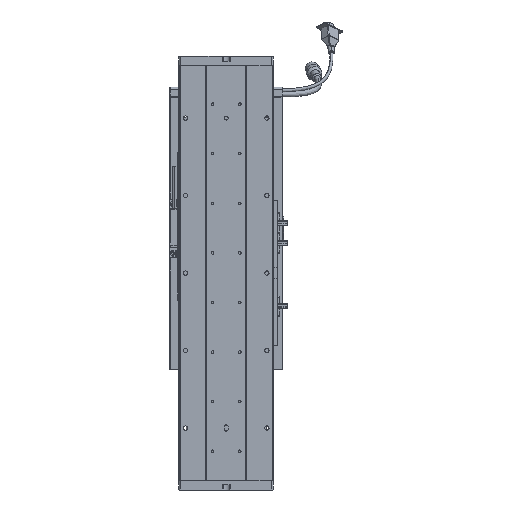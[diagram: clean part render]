
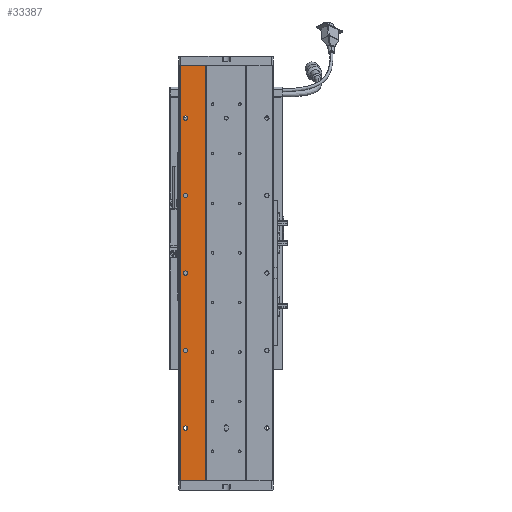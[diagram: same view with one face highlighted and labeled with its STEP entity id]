
A CAD part, front view. The second image highlights one B-rep face of the part: STEP entity #33387.
In plain terms, the highlighted planar face has unit normal (0, -1, 0).
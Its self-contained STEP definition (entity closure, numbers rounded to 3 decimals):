
#696 = EDGE_CURVE ( 'NONE', #24079, #5399, #27885, .T. ) ;
#879 = LINE ( 'NONE', #52023, #21330 ) ;
#1015 = DIRECTION ( 'NONE',  ( 0., 1., 0. ) ) ;
#1364 = CARTESIAN_POINT ( 'NONE',  ( 128.625, 76.768, 536. ) ) ;
#1545 = AXIS2_PLACEMENT_3D ( 'NONE', #44455, #1015, #29082 ) ;
#1965 = DIRECTION ( 'NONE',  ( 0., 0., 1. ) ) ;
#2203 = FACE_BOUND ( 'NONE', #65669, .T. ) ;
#2283 = AXIS2_PLACEMENT_3D ( 'NONE', #57900, #12712, #36056 ) ;
#2845 = CIRCLE ( 'NONE', #41179, 2.75 ) ;
#3505 = EDGE_LOOP ( 'NONE', ( #30170, #33430 ) ) ;
#3979 = FACE_BOUND ( 'NONE', #3505, .T. ) ;
#4321 = VERTEX_POINT ( 'NONE', #61598 ) ;
#4698 = CARTESIAN_POINT ( 'NONE',  ( 84.971, 76.768, 536. ) ) ;
#5399 = VERTEX_POINT ( 'NONE', #56691 ) ;
#6296 = DIRECTION ( 'NONE',  ( 0., 1., 0. ) ) ;
#6460 = ORIENTED_EDGE ( 'NONE', *, *, #73399, .T. ) ;
#8108 = VERTEX_POINT ( 'NONE', #21131 ) ;
#9992 = ORIENTED_EDGE ( 'NONE', *, *, #23404, .F. ) ;
#10137 = CARTESIAN_POINT ( 'NONE',  ( 102.625, 76.768, 165.25 ) ) ;
#10260 = ORIENTED_EDGE ( 'NONE', *, *, #46914, .T. ) ;
#10585 = CIRCLE ( 'NONE', #70773, 2.75 ) ;
#10951 = VECTOR ( 'NONE', #22321, 1000. ) ;
#11535 = DIRECTION ( 'NONE',  ( 0., 0., 1. ) ) ;
#12712 = DIRECTION ( 'NONE',  ( 0., 1., 0. ) ) ;
#12991 = CIRCLE ( 'NONE', #34210, 2.75 ) ;
#13114 = VERTEX_POINT ( 'NONE', #14262 ) ;
#13652 = CARTESIAN_POINT ( 'NONE',  ( 102.625, 76.768, 168. ) ) ;
#14262 = CARTESIAN_POINT ( 'NONE',  ( 102.625, 76.768, 470.75 ) ) ;
#14892 = VERTEX_POINT ( 'NONE', #73003 ) ;
#15277 = DIRECTION ( 'NONE',  ( 0., 0., 1. ) ) ;
#15939 = PLANE ( 'NONE',  #1545 ) ;
#15984 = ORIENTED_EDGE ( 'NONE', *, *, #40187, .T. ) ;
#16015 = CARTESIAN_POINT ( 'NONE',  ( 95.718, 76.768, 536. ) ) ;
#17117 = EDGE_CURVE ( 'NONE', #14892, #8108, #22646, .T. ) ;
#18339 = CARTESIAN_POINT ( 'NONE',  ( 95.718, 76.768, 536. ) ) ;
#19124 = ORIENTED_EDGE ( 'NONE', *, *, #50335, .T. ) ;
#19865 = DIRECTION ( 'NONE',  ( 0., 1., 0. ) ) ;
#20387 = DIRECTION ( 'NONE',  ( 0., 1., 0. ) ) ;
#20867 = FACE_OUTER_BOUND ( 'NONE', #33679, .T. ) ;
#20951 = DIRECTION ( 'NONE',  ( 0., 0., 1. ) ) ;
#21131 = CARTESIAN_POINT ( 'NONE',  ( 102.625, 76.768, 365.25 ) ) ;
#21187 = CARTESIAN_POINT ( 'NONE',  ( 102.625, 76.768, 168. ) ) ;
#21330 = VECTOR ( 'NONE', #57976, 1000. ) ;
#21603 = ORIENTED_EDGE ( 'NONE', *, *, #17117, .T. ) ;
#21736 = AXIS2_PLACEMENT_3D ( 'NONE', #45526, #6296, #46258 ) ;
#22321 = DIRECTION ( 'NONE',  ( 0., 0., -1. ) ) ;
#22646 = CIRCLE ( 'NONE', #73523, 2.75 ) ;
#22786 = LINE ( 'NONE', #18339, #67202 ) ;
#23404 = EDGE_CURVE ( 'NONE', #57441, #41741, #22786, .T. ) ;
#23938 = ORIENTED_EDGE ( 'NONE', *, *, #53749, .T. ) ;
#23974 = EDGE_CURVE ( 'NONE', #60834, #53664, #59979, .T. ) ;
#24033 = DIRECTION ( 'NONE',  ( 0., 0., 1. ) ) ;
#24079 = VERTEX_POINT ( 'NONE', #1364 ) ;
#26093 = CARTESIAN_POINT ( 'NONE',  ( 102.625, 76.768, 368. ) ) ;
#27389 = EDGE_CURVE ( 'NONE', #5399, #57441, #879, .T. ) ;
#27885 = LINE ( 'NONE', #56783, #10951 ) ;
#29082 = DIRECTION ( 'NONE',  ( 0., 0., 1. ) ) ;
#29606 = EDGE_CURVE ( 'NONE', #71316, #13114, #41794, .T. ) ;
#29677 = AXIS2_PLACEMENT_3D ( 'NONE', #57762, #47341, #24033 ) ;
#30170 = ORIENTED_EDGE ( 'NONE', *, *, #61099, .T. ) ;
#30252 = AXIS2_PLACEMENT_3D ( 'NONE', #13652, #58845, #47675 ) ;
#30592 = CARTESIAN_POINT ( 'NONE',  ( 102.625, 76.768, 68. ) ) ;
#33387 = ADVANCED_FACE ( 'NONE', ( #73283, #2203, #51071, #3979, #47487, #20867 ), #15939, .F. ) ;
#33430 = ORIENTED_EDGE ( 'NONE', *, *, #58703, .T. ) ;
#33679 = EDGE_LOOP ( 'NONE', ( #39640, #45072, #40521, #9992 ) ) ;
#34210 = AXIS2_PLACEMENT_3D ( 'NONE', #44295, #49275, #15277 ) ;
#36056 = DIRECTION ( 'NONE',  ( 0., 0., 1. ) ) ;
#36316 = ORIENTED_EDGE ( 'NONE', *, *, #29606, .T. ) ;
#38304 = CIRCLE ( 'NONE', #21736, 2.75 ) ;
#39640 = ORIENTED_EDGE ( 'NONE', *, *, #27389, .F. ) ;
#40166 = CIRCLE ( 'NONE', #30252, 2.75 ) ;
#40187 = EDGE_CURVE ( 'NONE', #4321, #49925, #2845, .T. ) ;
#40521 = ORIENTED_EDGE ( 'NONE', *, *, #69498, .T. ) ;
#40774 = VECTOR ( 'NONE', #72464, 1000. ) ;
#41179 = AXIS2_PLACEMENT_3D ( 'NONE', #30592, #19865, #42204 ) ;
#41741 = VERTEX_POINT ( 'NONE', #16015 ) ;
#41794 = CIRCLE ( 'NONE', #56550, 2.75 ) ;
#42204 = DIRECTION ( 'NONE',  ( 0., 0., 1. ) ) ;
#43195 = CARTESIAN_POINT ( 'NONE',  ( 102.625, 76.768, 465.25 ) ) ;
#44295 = CARTESIAN_POINT ( 'NONE',  ( 102.625, 76.768, 68. ) ) ;
#44455 = CARTESIAN_POINT ( 'NONE',  ( 84.971, 76.768, 0. ) ) ;
#45072 = ORIENTED_EDGE ( 'NONE', *, *, #696, .F. ) ;
#45311 = DIRECTION ( 'NONE',  ( 0., 1., 0. ) ) ;
#45526 = CARTESIAN_POINT ( 'NONE',  ( 102.625, 76.768, 368. ) ) ;
#46258 = DIRECTION ( 'NONE',  ( 0., 0., 1. ) ) ;
#46914 = EDGE_CURVE ( 'NONE', #53664, #60834, #69664, .T. ) ;
#47341 = DIRECTION ( 'NONE',  ( 0., 1., 0. ) ) ;
#47487 = FACE_BOUND ( 'NONE', #65723, .T. ) ;
#47607 = DIRECTION ( 'NONE',  ( 0., 1., 0. ) ) ;
#47675 = DIRECTION ( 'NONE',  ( 0., 0., 1. ) ) ;
#48067 = VERTEX_POINT ( 'NONE', #70389 ) ;
#48618 = EDGE_LOOP ( 'NONE', ( #6460, #36316 ) ) ;
#49275 = DIRECTION ( 'NONE',  ( 0., 1., 0. ) ) ;
#49593 = AXIS2_PLACEMENT_3D ( 'NONE', #62699, #45311, #11535 ) ;
#49925 = VERTEX_POINT ( 'NONE', #53284 ) ;
#50335 = EDGE_CURVE ( 'NONE', #8108, #14892, #38304, .T. ) ;
#51071 = FACE_BOUND ( 'NONE', #64326, .T. ) ;
#52023 = CARTESIAN_POINT ( 'NONE',  ( 0., 76.768, 0. ) ) ;
#53284 = CARTESIAN_POINT ( 'NONE',  ( 102.625, 76.768, 70.75 ) ) ;
#53664 = VERTEX_POINT ( 'NONE', #71387 ) ;
#53749 = EDGE_CURVE ( 'NONE', #49925, #4321, #12991, .T. ) ;
#56550 = AXIS2_PLACEMENT_3D ( 'NONE', #69968, #47607, #1965 ) ;
#56691 = CARTESIAN_POINT ( 'NONE',  ( 128.625, 76.768, 0. ) ) ;
#56783 = CARTESIAN_POINT ( 'NONE',  ( 128.625, 76.768, 536. ) ) ;
#57441 = VERTEX_POINT ( 'NONE', #70458 ) ;
#57450 = ORIENTED_EDGE ( 'NONE', *, *, #23974, .T. ) ;
#57762 = CARTESIAN_POINT ( 'NONE',  ( 102.625, 76.768, 268. ) ) ;
#57900 = CARTESIAN_POINT ( 'NONE',  ( 102.625, 76.768, 468. ) ) ;
#57976 = DIRECTION ( 'NONE',  ( -1., 0., 0. ) ) ;
#58703 = EDGE_CURVE ( 'NONE', #69654, #48067, #40166, .T. ) ;
#58845 = DIRECTION ( 'NONE',  ( 0., 1., 0. ) ) ;
#59979 = CIRCLE ( 'NONE', #49593, 2.75 ) ;
#60834 = VERTEX_POINT ( 'NONE', #63419 ) ;
#61099 = EDGE_CURVE ( 'NONE', #48067, #69654, #10585, .T. ) ;
#61122 = DIRECTION ( 'NONE',  ( 0., 1., 0. ) ) ;
#61598 = CARTESIAN_POINT ( 'NONE',  ( 102.625, 76.768, 65.25 ) ) ;
#62509 = CIRCLE ( 'NONE', #2283, 2.75 ) ;
#62699 = CARTESIAN_POINT ( 'NONE',  ( 102.625, 76.768, 268. ) ) ;
#63000 = LINE ( 'NONE', #4698, #40774 ) ;
#63419 = CARTESIAN_POINT ( 'NONE',  ( 102.625, 76.768, 270.75 ) ) ;
#64246 = DIRECTION ( 'NONE',  ( 0., 0., 1. ) ) ;
#64326 = EDGE_LOOP ( 'NONE', ( #23938, #15984 ) ) ;
#65669 = EDGE_LOOP ( 'NONE', ( #21603, #19124 ) ) ;
#65723 = EDGE_LOOP ( 'NONE', ( #57450, #10260 ) ) ;
#65827 = DIRECTION ( 'NONE',  ( 0., 0., 1. ) ) ;
#67202 = VECTOR ( 'NONE', #64246, 1000. ) ;
#69498 = EDGE_CURVE ( 'NONE', #24079, #41741, #63000, .T. ) ;
#69654 = VERTEX_POINT ( 'NONE', #10137 ) ;
#69664 = CIRCLE ( 'NONE', #29677, 2.75 ) ;
#69968 = CARTESIAN_POINT ( 'NONE',  ( 102.625, 76.768, 468. ) ) ;
#70389 = CARTESIAN_POINT ( 'NONE',  ( 102.625, 76.768, 170.75 ) ) ;
#70458 = CARTESIAN_POINT ( 'NONE',  ( 95.718, 76.768, 0. ) ) ;
#70773 = AXIS2_PLACEMENT_3D ( 'NONE', #21187, #61122, #20951 ) ;
#71316 = VERTEX_POINT ( 'NONE', #43195 ) ;
#71387 = CARTESIAN_POINT ( 'NONE',  ( 102.625, 76.768, 265.25 ) ) ;
#72464 = DIRECTION ( 'NONE',  ( -1., 0., 0. ) ) ;
#73003 = CARTESIAN_POINT ( 'NONE',  ( 102.625, 76.768, 370.75 ) ) ;
#73283 = FACE_BOUND ( 'NONE', #48618, .T. ) ;
#73399 = EDGE_CURVE ( 'NONE', #13114, #71316, #62509, .T. ) ;
#73523 = AXIS2_PLACEMENT_3D ( 'NONE', #26093, #20387, #65827 ) ;
